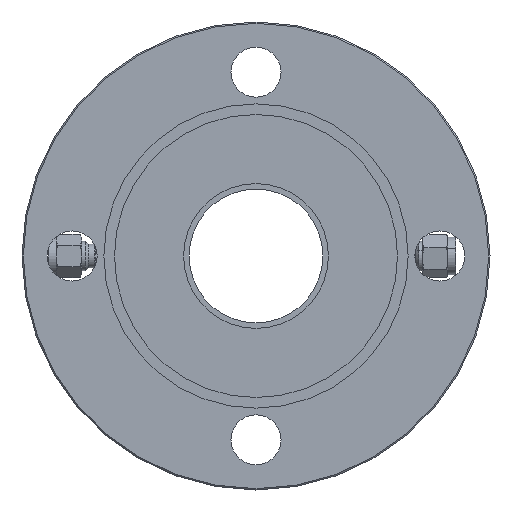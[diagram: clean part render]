
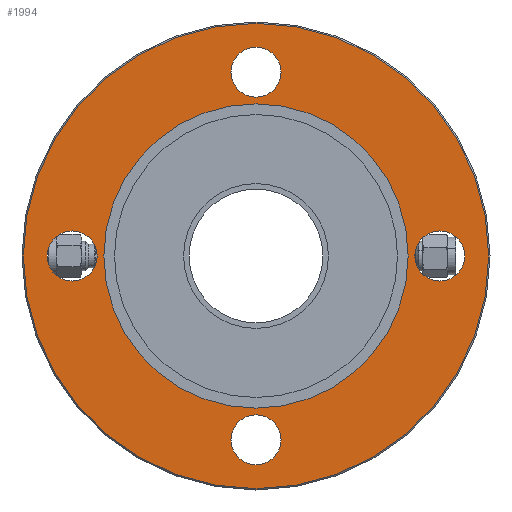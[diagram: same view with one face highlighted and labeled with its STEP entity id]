
A CAD part, left-side view. The second image highlights one B-rep face of the part: STEP entity #1994.
In plain terms, the highlighted planar face has unit normal (-1, 0, 0).
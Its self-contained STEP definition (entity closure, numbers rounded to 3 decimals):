
#616=PLANE('',#11700);
#738=FACE_BOUND('',#3534,.T.);
#739=FACE_BOUND('',#3535,.T.);
#740=FACE_BOUND('',#3536,.T.);
#741=FACE_BOUND('',#3537,.T.);
#742=FACE_BOUND('',#3538,.T.);
#743=FACE_BOUND('',#3539,.T.);
#1994=ADVANCED_FACE('',(#738,#739,#740,#741,#742,#743),#616,.T.);
#3534=EDGE_LOOP('',(#6514,#6515));
#3535=EDGE_LOOP('',(#6516,#6517));
#3536=EDGE_LOOP('',(#6518,#6519));
#3537=EDGE_LOOP('',(#6520,#6521));
#3538=EDGE_LOOP('',(#6522,#6523));
#3539=EDGE_LOOP('',(#6524,#6525));
#6514=ORIENTED_EDGE('',*,*,#10181,.T.);
#6515=ORIENTED_EDGE('',*,*,#9615,.T.);
#6516=ORIENTED_EDGE('',*,*,#10182,.F.);
#6517=ORIENTED_EDGE('',*,*,#9865,.F.);
#6518=ORIENTED_EDGE('',*,*,#10183,.F.);
#6519=ORIENTED_EDGE('',*,*,#9861,.F.);
#6520=ORIENTED_EDGE('',*,*,#10184,.F.);
#6521=ORIENTED_EDGE('',*,*,#9857,.F.);
#6522=ORIENTED_EDGE('',*,*,#10185,.F.);
#6523=ORIENTED_EDGE('',*,*,#9853,.F.);
#6524=ORIENTED_EDGE('',*,*,#10186,.F.);
#6525=ORIENTED_EDGE('',*,*,#9845,.F.);
#8322=VERTEX_POINT('',#16238);
#8323=VERTEX_POINT('',#16239);
#8487=VERTEX_POINT('',#17838);
#8488=VERTEX_POINT('',#17840);
#8495=VERTEX_POINT('',#17856);
#8496=VERTEX_POINT('',#17858);
#8499=VERTEX_POINT('',#17865);
#8500=VERTEX_POINT('',#17867);
#8503=VERTEX_POINT('',#17874);
#8504=VERTEX_POINT('',#17876);
#8507=VERTEX_POINT('',#17883);
#8508=VERTEX_POINT('',#17885);
#9615=EDGE_CURVE('',#8322,#8323,#10937,.T.);
#9845=EDGE_CURVE('',#8487,#8488,#10948,.T.);
#9853=EDGE_CURVE('',#8495,#8496,#10952,.T.);
#9857=EDGE_CURVE('',#8499,#8500,#10954,.T.);
#9861=EDGE_CURVE('',#8503,#8504,#10956,.T.);
#9865=EDGE_CURVE('',#8507,#8508,#10958,.T.);
#10181=EDGE_CURVE('',#8323,#8322,#10969,.T.);
#10182=EDGE_CURVE('',#8508,#8507,#10970,.T.);
#10183=EDGE_CURVE('',#8504,#8503,#10971,.T.);
#10184=EDGE_CURVE('',#8500,#8499,#10972,.T.);
#10185=EDGE_CURVE('',#8496,#8495,#10973,.T.);
#10186=EDGE_CURVE('',#8488,#8487,#10974,.T.);
#10937=CIRCLE('',#11508,88.4);
#10948=CIRCLE('',#11591,57.8);
#10952=CIRCLE('',#11597,9.5);
#10954=CIRCLE('',#11600,9.5);
#10956=CIRCLE('',#11603,9.5);
#10958=CIRCLE('',#11606,9.5);
#10969=CIRCLE('',#11694,88.4);
#10970=CIRCLE('',#11695,9.5);
#10971=CIRCLE('',#11696,9.5);
#10972=CIRCLE('',#11697,9.5);
#10973=CIRCLE('',#11698,9.5);
#10974=CIRCLE('',#11699,57.8);
#11508=AXIS2_PLACEMENT_3D('',#16237,#12973,#12974);
#11591=AXIS2_PLACEMENT_3D('',#17839,#13222,#13223);
#11597=AXIS2_PLACEMENT_3D('',#17857,#13238,#13239);
#11600=AXIS2_PLACEMENT_3D('',#17866,#13246,#13247);
#11603=AXIS2_PLACEMENT_3D('',#17875,#13254,#13255);
#11606=AXIS2_PLACEMENT_3D('',#17884,#13262,#13263);
#11694=AXIS2_PLACEMENT_3D('',#20718,#13527,#13528);
#11695=AXIS2_PLACEMENT_3D('',#20719,#13529,#13530);
#11696=AXIS2_PLACEMENT_3D('',#20720,#13531,#13532);
#11697=AXIS2_PLACEMENT_3D('',#20721,#13533,#13534);
#11698=AXIS2_PLACEMENT_3D('',#20722,#13535,#13536);
#11699=AXIS2_PLACEMENT_3D('',#20723,#13537,#13538);
#11700=AXIS2_PLACEMENT_3D('',#20724,#13539,#13540);
#12973=DIRECTION('',(-1.,0.,0.));
#12974=DIRECTION('',(0.,-1.,0.));
#13222=DIRECTION('',(-1.,0.,0.));
#13223=DIRECTION('',(0.,-1.,0.));
#13238=DIRECTION('',(-1.,0.,0.));
#13239=DIRECTION('',(0.,0.,-1.));
#13246=DIRECTION('',(-1.,0.,0.));
#13247=DIRECTION('',(0.,1.,0.));
#13254=DIRECTION('',(-1.,0.,0.));
#13255=DIRECTION('',(0.,0.,1.));
#13262=DIRECTION('',(-1.,0.,0.));
#13263=DIRECTION('',(0.,-1.,0.));
#13527=DIRECTION('',(-1.,0.,0.));
#13528=DIRECTION('',(0.,-1.,0.));
#13529=DIRECTION('',(-1.,0.,0.));
#13530=DIRECTION('',(0.,-1.,0.));
#13531=DIRECTION('',(-1.,0.,0.));
#13532=DIRECTION('',(0.,0.,1.));
#13533=DIRECTION('',(-1.,0.,0.));
#13534=DIRECTION('',(0.,1.,0.));
#13535=DIRECTION('',(-1.,0.,0.));
#13536=DIRECTION('',(0.,0.,-1.));
#13537=DIRECTION('',(-1.,0.,0.));
#13538=DIRECTION('',(0.,-1.,0.));
#13539=DIRECTION('',(-1.,0.,0.));
#13540=DIRECTION('',(0.,1.,0.));
#16237=CARTESIAN_POINT('',(-69.081,-3.32,0.));
#16238=CARTESIAN_POINT('',(-69.081,-91.72,0.));
#16239=CARTESIAN_POINT('',(-69.081,85.08,0.));
#17838=CARTESIAN_POINT('',(-69.081,54.48,0.));
#17839=CARTESIAN_POINT('',(-69.081,-3.32,0.));
#17840=CARTESIAN_POINT('',(-69.081,-61.12,0.));
#17856=CARTESIAN_POINT('',(-69.081,6.18,69.85));
#17857=CARTESIAN_POINT('',(-69.081,-3.32,69.85));
#17858=CARTESIAN_POINT('',(-69.081,-12.82,69.85));
#17865=CARTESIAN_POINT('',(-69.081,-63.67,0.));
#17866=CARTESIAN_POINT('',(-69.081,-73.17,0.));
#17867=CARTESIAN_POINT('',(-69.081,-82.67,0.));
#17874=CARTESIAN_POINT('',(-69.081,6.18,-69.85));
#17875=CARTESIAN_POINT('',(-69.081,-3.32,-69.85));
#17876=CARTESIAN_POINT('',(-69.081,-12.82,-69.85));
#17883=CARTESIAN_POINT('',(-69.081,76.03,0.));
#17884=CARTESIAN_POINT('',(-69.081,66.53,0.));
#17885=CARTESIAN_POINT('',(-69.081,57.03,0.));
#20718=CARTESIAN_POINT('',(-69.081,-3.32,0.));
#20719=CARTESIAN_POINT('',(-69.081,66.53,0.));
#20720=CARTESIAN_POINT('',(-69.081,-3.32,-69.85));
#20721=CARTESIAN_POINT('',(-69.081,-73.17,0.));
#20722=CARTESIAN_POINT('',(-69.081,-3.32,69.85));
#20723=CARTESIAN_POINT('',(-69.081,-3.32,0.));
#20724=CARTESIAN_POINT('',(-69.081,-3.32,0.));
